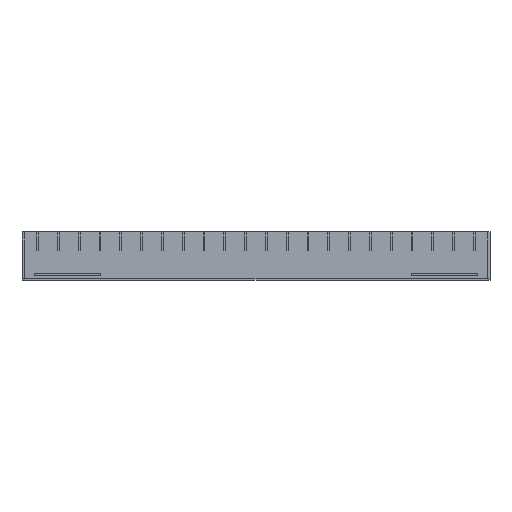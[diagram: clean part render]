
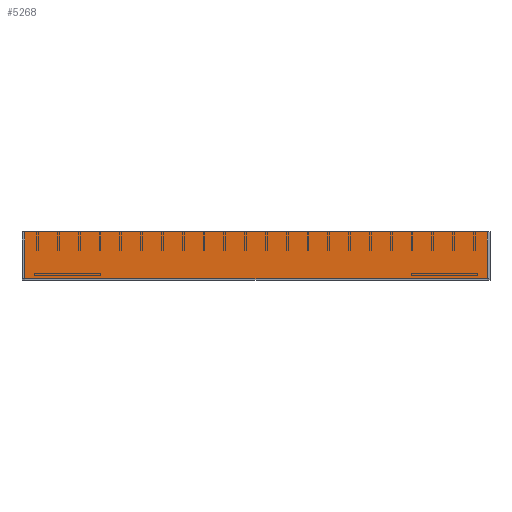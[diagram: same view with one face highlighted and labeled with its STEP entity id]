
A CAD part, top view. The second image highlights one B-rep face of the part: STEP entity #5268.
In plain terms, the highlighted planar face has unit normal (0, 0, 1).
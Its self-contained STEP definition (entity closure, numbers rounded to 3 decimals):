
#531 = DIRECTION ( 'NONE',  ( 0., -1., 0. ) ) ;
#758 = CARTESIAN_POINT ( 'NONE',  ( 430.766, 45.593, 3. ) ) ;
#978 = EDGE_CURVE ( 'NONE', #7206, #1560, #2853, .T. ) ;
#1051 = DIRECTION ( 'NONE',  ( 0., 1., 0. ) ) ;
#1247 = LINE ( 'NONE', #6406, #8870 ) ;
#1560 = VERTEX_POINT ( 'NONE', #9156 ) ;
#2761 = VECTOR ( 'NONE', #1051, 1000. ) ;
#2785 = PLANE ( 'NONE',  #9355 ) ;
#2853 = LINE ( 'NONE', #4201, #6569 ) ;
#3001 = EDGE_CURVE ( 'NONE', #6268, #8433, #3973, .T. ) ;
#3537 = DIRECTION ( 'NONE',  ( 1., 0., 0. ) ) ;
#3601 = EDGE_LOOP ( 'NONE', ( #6209, #4965, #9158, #6715 ) ) ;
#3973 = LINE ( 'NONE', #6094, #9412 ) ;
#4201 = CARTESIAN_POINT ( 'NONE',  ( -63.234, -4.407, 3. ) ) ;
#4732 = CARTESIAN_POINT ( 'NONE',  ( 430.766, 45.593, 3. ) ) ;
#4965 = ORIENTED_EDGE ( 'NONE', *, *, #978, .T. ) ;
#5268 = ADVANCED_FACE ( 'NONE', ( #7658 ), #2785, .T. ) ;
#5583 = CARTESIAN_POINT ( 'NONE',  ( -63.234, 45.593, 3. ) ) ;
#5741 = CARTESIAN_POINT ( 'NONE',  ( -63.234, -4.407, 3. ) ) ;
#6094 = CARTESIAN_POINT ( 'NONE',  ( -63.234, 45.593, 3. ) ) ;
#6209 = ORIENTED_EDGE ( 'NONE', *, *, #6634, .T. ) ;
#6230 = CARTESIAN_POINT ( 'NONE',  ( -63.234, -4.407, 3. ) ) ;
#6268 = VERTEX_POINT ( 'NONE', #758 ) ;
#6406 = CARTESIAN_POINT ( 'NONE',  ( -63.234, 45.593, 3. ) ) ;
#6569 = VECTOR ( 'NONE', #8612, 1000. ) ;
#6634 = EDGE_CURVE ( 'NONE', #8433, #7206, #1247, .T. ) ;
#6715 = ORIENTED_EDGE ( 'NONE', *, *, #3001, .T. ) ;
#6834 = DIRECTION ( 'NONE',  ( -1., 0., 0. ) ) ;
#7206 = VERTEX_POINT ( 'NONE', #6230 ) ;
#7395 = LINE ( 'NONE', #4732, #2761 ) ;
#7658 = FACE_OUTER_BOUND ( 'NONE', #3601, .T. ) ;
#7971 = DIRECTION ( 'NONE',  ( 0., 0., 1. ) ) ;
#8433 = VERTEX_POINT ( 'NONE', #5583 ) ;
#8612 = DIRECTION ( 'NONE',  ( 1., 0., 0. ) ) ;
#8870 = VECTOR ( 'NONE', #531, 1000. ) ;
#9150 = EDGE_CURVE ( 'NONE', #1560, #6268, #7395, .T. ) ;
#9156 = CARTESIAN_POINT ( 'NONE',  ( 430.766, -4.407, 3. ) ) ;
#9158 = ORIENTED_EDGE ( 'NONE', *, *, #9150, .T. ) ;
#9355 = AXIS2_PLACEMENT_3D ( 'NONE', #5741, #7971, #3537 ) ;
#9412 = VECTOR ( 'NONE', #6834, 1000. ) ;
